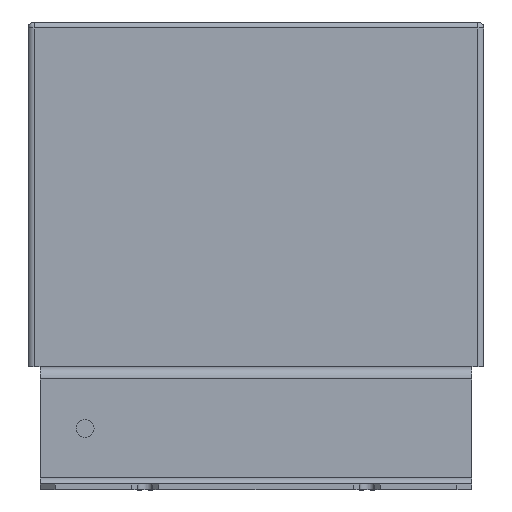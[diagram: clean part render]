
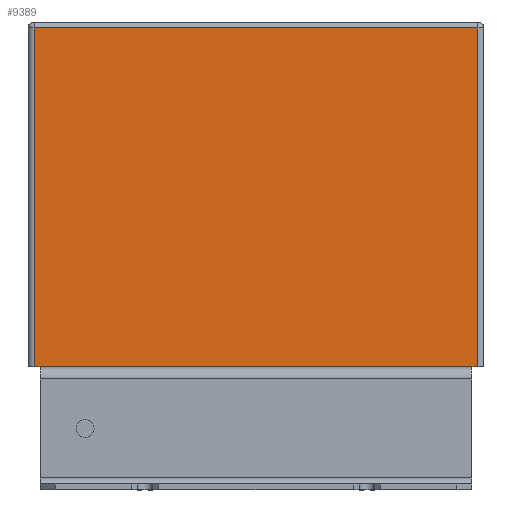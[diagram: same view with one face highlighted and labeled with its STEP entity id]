
A CAD part, front view. The second image highlights one B-rep face of the part: STEP entity #9389.
In plain terms, the highlighted planar face has unit normal (0, -1, 0).
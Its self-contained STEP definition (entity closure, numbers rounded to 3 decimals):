
#680=FACE_OUTER_BOUND('',#1306,.T.);
#1306=EDGE_LOOP('',(#8417,#8418,#8419,#8420,#8421,#8422));
#1913=LINE('',#13319,#3160);
#2435=LINE('',#14386,#3682);
#2438=LINE('',#14400,#3685);
#2442=LINE('',#14406,#3689);
#2449=LINE('',#14419,#3696);
#2550=LINE('',#14648,#3797);
#3160=VECTOR('',#10679,10.);
#3682=VECTOR('',#11795,10.);
#3685=VECTOR('',#11810,10.);
#3689=VECTOR('',#11818,10.);
#3696=VECTOR('',#11833,10.);
#3797=VECTOR('',#12038,10.);
#4323=VERTEX_POINT('',#13316);
#4324=VERTEX_POINT('',#13318);
#4572=VERTEX_POINT('',#14382);
#4573=VERTEX_POINT('',#14389);
#4576=VERTEX_POINT('',#14396);
#4579=VERTEX_POINT('',#14418);
#5251=EDGE_CURVE('',#4324,#4323,#1913,.T.);
#5785=EDGE_CURVE('',#4324,#4572,#2435,.T.);
#5792=EDGE_CURVE('',#4573,#4576,#2438,.T.);
#5796=EDGE_CURVE('',#4572,#4573,#2442,.T.);
#5803=EDGE_CURVE('',#4579,#4576,#2449,.T.);
#5916=EDGE_CURVE('',#4579,#4323,#2550,.T.);
#8417=ORIENTED_EDGE('',*,*,#5785,.F.);
#8418=ORIENTED_EDGE('',*,*,#5251,.T.);
#8419=ORIENTED_EDGE('',*,*,#5916,.F.);
#8420=ORIENTED_EDGE('',*,*,#5803,.T.);
#8421=ORIENTED_EDGE('',*,*,#5792,.F.);
#8422=ORIENTED_EDGE('',*,*,#5796,.F.);
#8949=PLANE('',#9885);
#9389=ADVANCED_FACE('',(#680),#8949,.T.);
#9885=AXIS2_PLACEMENT_3D('',#14647,#12036,#12037);
#10679=DIRECTION('',(1.,0.,0.));
#11795=DIRECTION('',(0.,0.,1.));
#11810=DIRECTION('',(0.,0.,-1.));
#11818=DIRECTION('',(1.,0.,0.));
#11833=DIRECTION('',(1.,0.,0.));
#12036=DIRECTION('center_axis',(0.,-1.,0.));
#12037=DIRECTION('ref_axis',(1.,0.,0.));
#12038=DIRECTION('',(-1.,0.,0.));
#13316=CARTESIAN_POINT('',(-72.,-238.,2.));
#13318=CARTESIAN_POINT('',(-74.,-238.,2.));
#13319=CARTESIAN_POINT('',(-76.,-238.,2.));
#14382=CARTESIAN_POINT('',(-74.,-238.,115.));
#14386=CARTESIAN_POINT('',(-74.,-238.,2.));
#14389=CARTESIAN_POINT('',(74.,-238.,115.));
#14396=CARTESIAN_POINT('',(74.,-238.,2.));
#14400=CARTESIAN_POINT('',(74.,-238.,2.));
#14406=CARTESIAN_POINT('',(-38.,-238.,115.));
#14418=CARTESIAN_POINT('',(72.,-238.,2.));
#14419=CARTESIAN_POINT('',(-76.,-238.,2.));
#14647=CARTESIAN_POINT('Origin',(-76.,-238.,2.));
#14648=CARTESIAN_POINT('',(0.,-238.,2.));
